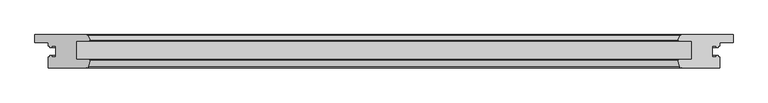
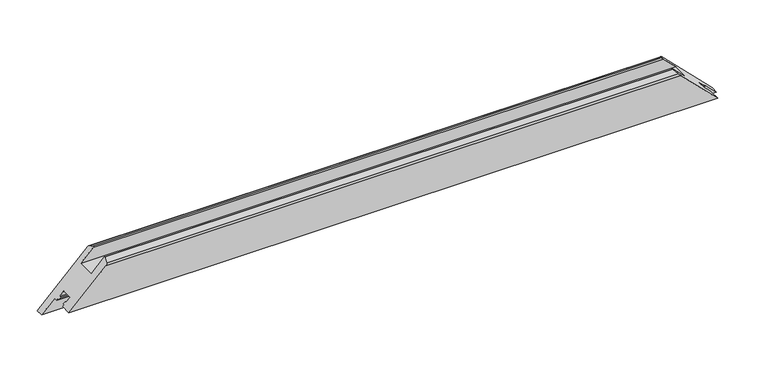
"""IFC4 building model written with IfcOpenShell, lengths in millimetres: proxy geometry, Weiku - Montante - Folha 02.2.01.017 : Weiku - Montante - Folha 02.2.01.017."""

import ifcopenshell
import ifcopenshell.guid

model = None  # the IFC model being written
_history = None  # IfcOwnerHistory: only IFC2X3 demands one
_inside = {}  # id of a spatial element -> (the spatial element, [elements in it])
_under = {}  # id of a project, library or spatial element -> (it, [spatial elements below it])
_declared = {}  # id of a project -> (the project, [libraries it declares])
_typed = {}  # id of a type object -> (the type object, [elements of that type])
_made_of = {}  # id of a material, layer set ... -> (it, [elements and type objects made of it])


def new_model(schema):
    """Start an empty IFC model of exactly this schema.

    Asked for "IFC4X3", IfcOpenShell would pick the latest addendum, in which some entities
    have other attributes; the version numbers below select the first issue.
    IFC2X3 requires an IfcOwnerHistory on every rooted entity: one is made here for all.
    """
    global model, _history
    if schema == "IFC4X3":
        model = ifcopenshell.file(schema_version=(4, 3, 0, 0))
    else:
        model = ifcopenshell.file(schema=schema)
    _inside.clear()
    _under.clear()
    _declared.clear()
    _typed.clear()
    _made_of.clear()
    _history = None
    if model.schema == "IFC2X3":
        org = make("IfcOrganization", Name="unknown")
        user = make(
            "IfcPersonAndOrganization",
            ThePerson=make("IfcPerson", FamilyName="unknown"),
            TheOrganization=org,
        )
        app = make(
            "IfcApplication",
            ApplicationDeveloper=org,
            Version="unknown",
            ApplicationFullName="unknown",
            ApplicationIdentifier="unknown",
        )
        _history = make(
            "IfcOwnerHistory",
            OwningUser=user,
            OwningApplication=app,
            ChangeAction="ADDED",
            CreationDate=0,
        )
    return model


def make(cls, **values):
    """One entity of the class cls with the attributes given. An attribute that is None is left unset."""
    return model.create_entity(
        cls, **{name: value for name, value in values.items() if value is not None}
    )


def rooted(cls, **values):
    """An entity with a GlobalId (a new one), such as an element, a storey or a relation."""
    return make(cls, GlobalId=ifcopenshell.guid.new(), OwnerHistory=_history, **values)


def si_unit(unit_type, name, prefix=None):
    """IfcSIUnit, for example si_unit("LENGTHUNIT", "METRE", prefix="MILLI")."""
    return make("IfcSIUnit", UnitType=unit_type, Prefix=prefix, Name=name)


def assignment(units):
    """IfcUnitAssignment: the units of a project."""
    return None if units is None else make("IfcUnitAssignment", Units=units)


def point(xyz):
    """IfcCartesianPoint."""
    return None if xyz is None else make("IfcCartesianPoint", Coordinates=xyz)


def direction(xyz):
    """IfcDirection."""
    return None if xyz is None else make("IfcDirection", DirectionRatios=xyz)


def frame(location, z_axis=None, x_axis=None):
    """IfcAxis2Placement3D, a coordinate frame: its origin and axes. An axis left out is left unset."""
    return make(
        "IfcAxis2Placement3D",
        Location=point(location),
        Axis=direction(z_axis),
        RefDirection=direction(x_axis),
    )


def origin():
    """The frame at (0, 0, 0) with its axes left unset."""
    return frame((0.0, 0.0, 0.0))


def place(relative_to, where):
    """IfcLocalPlacement: puts the frame where relative to a parent placement (None: the world)."""
    return make(
        "IfcLocalPlacement", PlacementRelTo=relative_to, RelativePlacement=where
    )


def context(
    kind, dimensions, precision=None, world=None, true_north=None, identifier=None
):
    """IfcGeometricRepresentationContext, for example the 3D "Model" context."""
    return make(
        "IfcGeometricRepresentationContext",
        ContextIdentifier=identifier,
        ContextType=kind,
        CoordinateSpaceDimension=dimensions,
        Precision=precision,
        WorldCoordinateSystem=world,
        TrueNorth=true_north,
    )


def project(units=None, contexts=None):
    """IfcProject with its units and contexts."""
    return rooted(
        "IfcProject",
        Name="project",
        RepresentationContexts=contexts,
        UnitsInContext=assignment(units),
    )


def spatial(cls, under=None, at=None, **own):
    """A site, building, storey or space (cls), placed at a placement, below another one or the project."""
    s = rooted(cls, ObjectPlacement=at, **own)
    if under is not None:
        _under.setdefault(under.id(), (under, []))[1].append(s)
    return s


def ellipse_curve(where, semi_axis1, semi_axis2):
    """IfcEllipse in the frame where."""
    return make(
        "IfcEllipse", Position=where, SemiAxis1=semi_axis1, SemiAxis2=semi_axis2
    )


def shape(context_of_items, identifier, shape_type, items):
    """IfcShapeRepresentation: the items that make up one representation, for example the "Body"."""
    return make(
        "IfcShapeRepresentation",
        ContextOfItems=context_of_items,
        RepresentationIdentifier=identifier,
        RepresentationType=shape_type,
        Items=items,
    )


def source(mapping_origin, context_of_items, identifier, shape_type, items):
    """IfcRepresentationMap: a shape defined once, which mapped items show again and again."""
    return make(
        "IfcRepresentationMap",
        MappingOrigin=mapping_origin,
        MappedRepresentation=shape(context_of_items, identifier, shape_type, items),
    )


def transform(
    local_origin,
    x_axis=None,
    y_axis=None,
    z_axis=None,
    scale=None,
    scale2=None,
    scale3=None,
    uniform=True,
):
    """IfcCartesianTransformationOperator3D, or its non-uniform kind. x_axis, y_axis, z_axis: its Axis1, 2, 3."""
    if uniform:
        return make(
            "IfcCartesianTransformationOperator3D",
            Axis1=direction(x_axis),
            Axis2=direction(y_axis),
            LocalOrigin=point(local_origin),
            Scale=scale,
            Axis3=direction(z_axis),
        )
    return make(
        "IfcCartesianTransformationOperator3DnonUniform",
        Axis1=direction(x_axis),
        Axis2=direction(y_axis),
        LocalOrigin=point(local_origin),
        Scale=scale,
        Axis3=direction(z_axis),
        Scale2=scale2,
        Scale3=scale3,
    )


def mapped(mapping_source, mapping_target):
    """IfcMappedItem: shows the shape of a source again, moved by a transform."""
    return make(
        "IfcMappedItem", MappingSource=mapping_source, MappingTarget=mapping_target
    )


def made_of(thing, what):
    """Note that an element or type object is made of a material, layer set ...; save() writes the relation."""
    if what is not None:
        _made_of.setdefault(what.id(), (what, []))[1].append(thing)
    return thing


def element(
    cls,
    number,
    at=None,
    inside=None,
    cuts=None,
    type_object=None,
    material=None,
    context=None,
    identifier="Body",
    shape_type=None,
    held_by="IfcProductDefinitionShape",
    body=None,
    shapes=None,
    **own,
):
    """One element of the class cls, such as IfcWall. Its Tag is "e" and its number.

    at: its placement. inside: the storey or other place that contains it. cuts: it is an
    opening in that element (IfcRelVoidsElement). A single representation is given by context,
    identifier, shape_type and body (its items); several are given by shapes. held_by: the class
    of the entity that holds the representations. save() writes the other relations.
    """
    e = rooted(cls, Tag="e%d" % number, ObjectPlacement=at, **own)
    if body is not None:
        shapes = [shape(context, identifier, shape_type, body)]
    if shapes is not None:
        e.Representation = make(held_by, Representations=shapes)
    if inside is not None:
        _inside.setdefault(inside.id(), (inside, []))[1].append(e)
    if cuts is not None:
        rooted(
            "IfcRelVoidsElement", RelatingBuildingElement=cuts, RelatedOpeningElement=e
        )
    if type_object is not None:
        _typed.setdefault(type_object.id(), (type_object, []))[1].append(e)
    return made_of(e, material)


def aggregate(whole, parts):
    """IfcRelAggregates: a whole, such as a stair, and the parts it consists of."""
    return rooted("IfcRelAggregates", RelatingObject=whole, RelatedObjects=parts)


def save(model, path):
    """Write the relations noted so far, then the file.

    IfcRelAggregates (storeys below a building ...), IfcRelContainedInSpatialStructure (elements
    in a storey), IfcRelDefinesByType, IfcRelAssociatesMaterial and IfcRelDeclares: one each for
    every whole, place, type object, material and project.
    """
    for whole, parts in _under.values():
        aggregate(whole, parts)
    for where, things in _inside.values():
        rooted(
            "IfcRelContainedInSpatialStructure",
            RelatedElements=things,
            RelatingStructure=where,
        )
    for kind, things in _typed.values():
        rooted("IfcRelDefinesByType", RelatedObjects=things, RelatingType=kind)
    for what, things in _made_of.values():
        rooted("IfcRelAssociatesMaterial", RelatedObjects=things, RelatingMaterial=what)
    for by, libraries in _declared.values():
        rooted("IfcRelDeclares", RelatingContext=by, RelatedDefinitions=libraries)
    model.write(path)


def plane_surface(at):
    """IfcPlane: the flat surface through the origin of the frame at, square to its z axis."""
    return make("IfcPlane", Position=at)


def cylinder_surface(at, radius):
    """IfcCylindricalSurface: all points at the distance radius from the z axis of the frame at."""
    return make("IfcCylindricalSurface", Position=at, Radius=radius)


def advanced_brep(points, edges, surfaces, faces):
    """IfcAdvancedBrep: a solid bounded by faces that lie on surfaces and meet in shared edges.

    An edge is (start, end): straight between two places in points (the first is 0);
    or (start, end, curve); or (start, end, curve, False) where it runs against its curve.
    A face is (place in surfaces, loops), or (place, loops, False) where it looks against
    its surface's normal. A loop lists edges by number (the first is 1), with a minus sign
    where the edge is run from its end to its start. The first loop is the outer one.
    """
    corners = [point(p) for p in points]
    vertices = [make("IfcVertexPoint", VertexGeometry=c) for c in corners]
    made = []
    for start, end, *more in edges:
        made.append(
            make(
                "IfcEdgeCurve",
                EdgeStart=vertices[start],
                EdgeEnd=vertices[end],
                EdgeGeometry=more[0] if more else make("IfcPolyline", Points=[corners[start], corners[end]]),
                SameSense=more[1] if len(more) > 1 else True,
            )
        )
    hull = []
    for where, loops, *sense in faces:
        bounds = []
        for j, loop in enumerate(loops):
            ring = [make("IfcOrientedEdge", EdgeElement=made[abs(k) - 1], Orientation=k > 0) for k in loop]
            bounds.append(
                make(
                    "IfcFaceOuterBound" if j == 0 else "IfcFaceBound",
                    Bound=make("IfcEdgeLoop", EdgeList=ring),
                    Orientation=True,
                )
            )
        hull.append(make("IfcAdvancedFace", Bounds=bounds, FaceSurface=surfaces[where], SameSense=sense[0] if sense else True))
    return make("IfcAdvancedBrep", Outer=make("IfcClosedShell", CfsFaces=hull))


def generic_models_cf21fd59(model_context):
    return source(origin(), model_context, "Body", "AdvancedBrep", [
        advanced_brep(
        [(-502.0, -50.0, 20.0), (502.0, -50.0, 20.0), (444.9997332, -50.0, 77.0002668), (-444.9997332, -50.0, 77.0002668), (-522.0, 0.0, 0.0), (-443.9872264, 0.0, 78.0127736), (443.9872264, 0.0, 78.0127736), (522.0, 0.0, 0.0), (-442.1019557, -47.7764571, 79.8980443), (-439.5170371, -38.1294095, 82.4829629), (-440.0, -37.5, 82.0), (-460.5, -37.5, 61.5), (-460.5, -9.5, 61.5), (-440.7134285, -9.5, 81.2865715), (-439.5512796, -7.617411, 82.4487204), (-443.0932657, -0.5518546, 78.9067343), (-522.0, -11.5, 0.0), (-502.0, -11.5, 20.0), (-502.0, -16.9, 20.0), (-499.8, -16.9, 22.2), (-499.8, -18.9, 22.2), (-497.0, -18.9, 25.0), (-497.0, -16.9, 25.0), (-490.5, -16.9, 31.5), (-490.5, -33.1, 31.5), (-497.0, -33.1, 25.0), (-497.0, -31.1, 25.0), (-499.8, -31.1, 22.2), (-499.8, -33.1, 22.2), (-502.0, -33.1, 20.0), (502.0, -33.1, 20.0), (499.8, -33.1, 22.2), (499.8, -31.1, 22.2), (497.0, -31.1, 25.0), (497.0, -33.1, 25.0), (490.5, -33.1, 31.5), (490.5, -16.9, 31.5), (497.0, -16.9, 25.0), (497.0, -18.9, 25.0), (499.8, -18.9, 22.2), (499.8, -16.9, 22.2), (502.0, -16.9, 20.0), (502.0, -11.5, 20.0), (522.0, -11.5, 0.0), (443.0932657, -0.5518546, 78.9067343), (439.5512796, -7.617411, 82.4487204), (440.7134285, -9.5, 81.2865715), (460.5, -9.5, 61.5), (460.5, -37.5, 61.5), (440.0, -37.5, 82.0), (439.5170371, -38.1294095, 82.4829629), (442.1019557, -47.7764571, 79.8980443)],
        [
            (0, 1),
            (1, 2),
            (2, 3),
            (3, 0),
            (4, 5),
            (5, 6),
            (6, 7),
            (7, 4),
            (3, 8, ellipse_curve(frame((-444.9997332, -47.0, 77.0002668), z_axis=(-0.7071067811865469, 0.0, 0.7071067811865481), x_axis=(-0.7071067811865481, 0.0, -0.7071067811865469)), 4.2426407, 3.0)),
            (8, 9),
            (9, 10, ellipse_curve(frame((-440.0, -38.0, 82.0), z_axis=(-0.7071067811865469, 0.0, 0.7071067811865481), x_axis=(-0.7071067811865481, 0.0, -0.7071067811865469)), 0.7071068, 0.5)),
            (10, 11),
            (11, 12),
            (12, 13),
            (13, 14, ellipse_curve(frame((-440.7134285, -8.2, 81.2865715), z_axis=(-0.7071067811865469, 0.0, 0.7071067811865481), x_axis=(-0.7071067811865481, 0.0, -0.7071067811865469)), 1.8384776, 1.3)),
            (14, 15),
            (15, 5, ellipse_curve(frame((-443.9872264, -1.0, 78.0127736), z_axis=(-0.7071067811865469, 0.0, 0.7071067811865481), x_axis=(-0.7071067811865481, 0.0, -0.7071067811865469)), 1.4142136, 1.0)),
            (4, 16),
            (16, 17),
            (17, 18),
            (18, 19),
            (19, 20),
            (20, 21),
            (21, 22),
            (22, 23),
            (23, 24),
            (24, 25),
            (25, 26),
            (26, 27),
            (27, 28),
            (28, 29),
            (29, 0),
            (1, 30),
            (30, 31),
            (31, 32),
            (32, 33),
            (33, 34),
            (34, 35),
            (35, 36),
            (36, 37),
            (37, 38),
            (38, 39),
            (39, 40),
            (40, 41),
            (41, 42),
            (42, 43),
            (43, 7),
            (6, 44, ellipse_curve(frame((443.9872264, -1.0, 78.0127736), z_axis=(0.7071067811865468, 0.0, 0.7071067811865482), x_axis=(-0.7071067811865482, 0.0, 0.7071067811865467)), 1.4142136, 1.0)),
            (44, 45),
            (45, 46, ellipse_curve(frame((440.7134285, -8.2, 81.2865715), z_axis=(0.7071067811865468, 0.0, 0.7071067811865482), x_axis=(-0.7071067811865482, 0.0, 0.7071067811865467)), 1.8384776, 1.3)),
            (46, 47),
            (47, 48),
            (48, 49),
            (49, 50, ellipse_curve(frame((440.0, -38.0, 82.0), z_axis=(0.7071067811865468, 0.0, 0.7071067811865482), x_axis=(-0.7071067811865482, 0.0, 0.7071067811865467)), 0.7071068, 0.5)),
            (50, 51),
            (51, 2, ellipse_curve(frame((444.9997332, -47.0, 77.0002668), z_axis=(0.7071067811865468, 0.0, 0.7071067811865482), x_axis=(-0.7071067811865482, 0.0, 0.7071067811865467)), 4.2426407, 3.0)),
            (15, 44),
            (14, 45),
            (13, 46),
            (12, 47),
            (11, 48),
            (10, 49),
            (9, 50),
            (8, 51),
            (29, 30),
            (28, 31),
            (27, 32),
            (26, 33),
            (25, 34),
            (24, 35),
            (23, 36),
            (22, 37),
            (21, 38),
            (20, 39),
            (19, 40),
            (18, 41),
            (17, 42),
            (16, 43),
        ],
        [
            plane_surface(frame((-522.0, -50.0, 77.0002668), z_axis=(0.0, -1.0, 0.0), x_axis=(1.0, 0.0, 0.0))),
            plane_surface(frame((-522.0, 0.0, 0.0), z_axis=(0.0, 1.0, 0.0), x_axis=(1.0, 0.0, 0.0))),
            plane_surface(frame((-550.2842712, 0.0, -28.2842712), z_axis=(-0.7071067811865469, 0.0, 0.7071067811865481), x_axis=(0.0, -1.0, 0.0))),
            plane_surface(frame((432.0, 0.0, 90.0), z_axis=(0.7071067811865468, 0.0, 0.7071067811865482), x_axis=(0.0, -1.0, 0.0))),
            cylinder_surface(frame((-522.0, -1.0, 78.0127736), z_axis=(-1.0, 0.0, 0.0), x_axis=(0.0, -1.0, 0.0)), 1.0),
            plane_surface(frame((-522.0, -0.5518546, 78.9067343), z_axis=(0.0, 0.4481453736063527, 0.8939606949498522), x_axis=(1.0, 0.0, 0.0))),
            cylinder_surface(frame((-522.0, -8.2, 81.2865715), z_axis=(-1.0, 0.0, 0.0), x_axis=(0.0, -1.0, 0.0)), 1.3),
            plane_surface(frame((-522.0, -9.5, 81.2865715), z_axis=(0.0, -1.0, 0.0), x_axis=(1.0, 0.0, 0.0))),
            plane_surface(frame((-522.0, -9.5, 61.5), z_axis=(0.0, 0.0, 1.0), x_axis=(1.0, 0.0, 0.0))),
            plane_surface(frame((-522.0, -37.5, 61.5), z_axis=(0.0, 1.0, 0.0), x_axis=(1.0, 0.0, 0.0))),
            cylinder_surface(frame((-522.0, -38.0, 82.0), z_axis=(-1.0, 0.0, 0.0), x_axis=(0.0, -1.0, 0.0)), 0.5),
            plane_surface(frame((-522.0, -38.1294095, 82.4829629), z_axis=(0.0, -0.2588190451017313, 0.9659258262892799), x_axis=(1.0, 0.0, 0.0))),
            cylinder_surface(frame((-522.0, -47.0, 77.0002668), z_axis=(-1.0, 0.0, 0.0), x_axis=(0.0, -1.0, 0.0)), 3.0),
            plane_surface(frame((-522.0, -50.0, 20.0), z_axis=(0.0, 0.0, -1.0), x_axis=(1.0, 0.0, 0.0))),
            plane_surface(frame((-522.0, -33.1, 20.0), z_axis=(0.0, 1.0, 0.0), x_axis=(1.0, 0.0, 0.0))),
            plane_surface(frame((-522.0, -33.1, 22.2), z_axis=(0.0, 0.0, -1.0), x_axis=(1.0, 0.0, 0.0))),
            plane_surface(frame((-522.0, -31.1, 22.2), z_axis=(0.0, 1.0, 0.0), x_axis=(1.0, 0.0, 0.0))),
            plane_surface(frame((-522.0, -31.1, 25.0), z_axis=(0.0, 0.0, 1.0), x_axis=(1.0, 0.0, 0.0))),
            plane_surface(frame((-522.0, -33.1, 25.0), z_axis=(0.0, 1.0, 0.0), x_axis=(1.0, 0.0, 0.0))),
            plane_surface(frame((-522.0, -33.1, 31.5), z_axis=(0.0, 0.0, -1.0), x_axis=(1.0, 0.0, 0.0))),
            plane_surface(frame((-522.0, -16.9, 31.5), z_axis=(0.0, -1.0, 0.0), x_axis=(1.0, 0.0, 0.0))),
            plane_surface(frame((-522.0, -16.9, 25.0), z_axis=(0.0, 0.0, 1.0), x_axis=(1.0, 0.0, 0.0))),
            plane_surface(frame((-522.0, -18.9, 25.0), z_axis=(0.0, -1.0, 0.0), x_axis=(1.0, 0.0, 0.0))),
            plane_surface(frame((-522.0, -18.9, 22.2), z_axis=(0.0, 0.0, -1.0), x_axis=(1.0, 0.0, 0.0))),
            plane_surface(frame((-522.0, -16.9, 22.2), z_axis=(0.0, -1.0, 0.0), x_axis=(1.0, 0.0, 0.0))),
            plane_surface(frame((-522.0, -16.9, 20.0), z_axis=(0.0, 0.0, -1.0), x_axis=(1.0, 0.0, 0.0))),
            plane_surface(frame((-522.0, -11.5, 20.0), z_axis=(0.0, -1.0, 0.0), x_axis=(1.0, 0.0, 0.0))),
            plane_surface(frame((-522.0, -11.5, 0.0), z_axis=(0.0, 0.0, -1.0), x_axis=(1.0, 0.0, 0.0))),
        ],
        [
            (0, [[1, 2, 3, 4]]),
            (1, [[5, 6, 7, 8]]),
            (2, [[9, 10, 11, 12, 13, 14, 15, 16, 17, -5, 18, 19, 20, 21, 22, 23, 24, 25, 26, 27, 28, 29, 30, 31, 32, -4]]),
            (3, [[33, 34, 35, 36, 37, 38, 39, 40, 41, 42, 43, 44, 45, 46, 47, -7, 48, 49, 50, 51, 52, 53, 54, 55, 56, -2]]),
            (4, [[57, -48, -6, -17]]),
            (5, [[58, -49, -57, -16]]),
            (6, [[59, -50, -58, -15]]),
            (7, [[60, -51, -59, -14]]),
            (8, [[61, -52, -60, -13]]),
            (9, [[62, -53, -61, -12]]),
            (10, [[63, -54, -62, -11]]),
            (11, [[64, -55, -63, -10]]),
            (12, [[-3, -56, -64, -9]]),
            (13, [[65, -33, -1, -32]]),
            (14, [[66, -34, -65, -31]]),
            (15, [[67, -35, -66, -30]]),
            (16, [[68, -36, -67, -29]]),
            (17, [[69, -37, -68, -28]]),
            (18, [[70, -38, -69, -27]]),
            (19, [[71, -39, -70, -26]]),
            (20, [[72, -40, -71, -25]]),
            (21, [[73, -41, -72, -24]]),
            (22, [[74, -42, -73, -23]]),
            (23, [[75, -43, -74, -22]]),
            (24, [[76, -44, -75, -21]]),
            (25, [[77, -45, -76, -20]]),
            (26, [[-46, -77, -19, 78]]),
            (27, [[-47, -78, -18, -8]]),
        ],
    ),
    ])


if __name__ == "__main__":
    model = new_model("IFC4")
    model_context = context("Model", 3, world=origin())
    ifc_project = project(units=[si_unit("LENGTHUNIT", "METRE", prefix="MILLI")], contexts=[model_context])
    site = spatial("IfcSite", under=ifc_project)
    building = spatial("IfcBuilding", under=site)
    placement = place(None, origin())
    generic_models_shape = generic_models_cf21fd59(model_context)
    element("IfcBuildingElementProxy", 1, Name="Weiku - Montante - Folha 02.2.01.017 : Weiku - Montante - Folha 02.2.01.017", ObjectType="Weiku - Montante - Folha 02.2.01.017 : Weiku - Montante - Folha 02.2.01.017", at=placement, inside=building, context=model_context, shape_type="MappedRepresentation", body=[
        mapped(generic_models_shape, transform((0.0, 0.0, 0.0), x_axis=(1.0, 0.0, 0.0), y_axis=(0.0, 1.0, 0.0), z_axis=(0.0, 0.0, 1.0))),
    ])
    save(model, "model.ifc")
